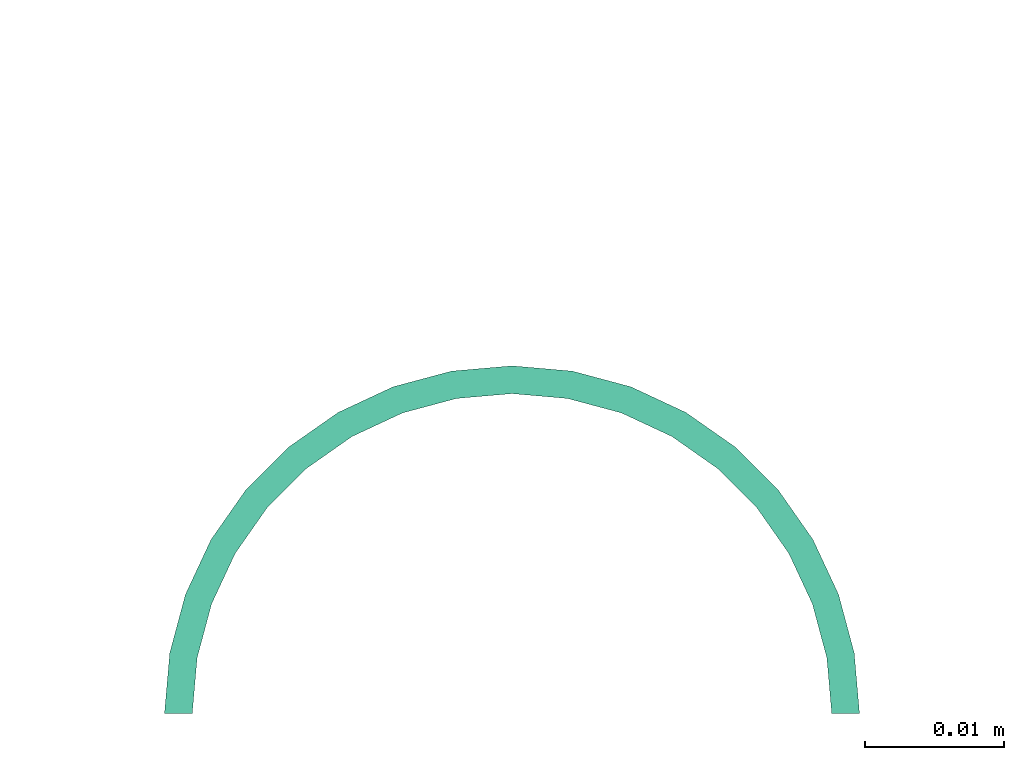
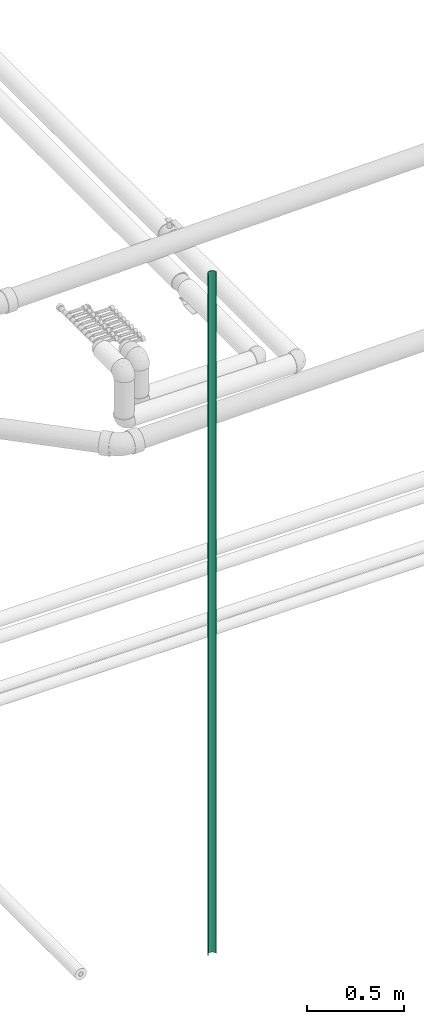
# One storey, part 50 of 83: 1 flow segment.
"""IFC2X3 building model written with IfcOpenShell, lengths in millimetres."""

import ifcopenshell
import ifcopenshell.guid

model = None  # the IFC model being written
_history = None  # IfcOwnerHistory: only IFC2X3 demands one
_inside = {}  # id of a spatial element -> (the spatial element, [elements in it])
_under = {}  # id of a project, library or spatial element -> (it, [spatial elements below it])
_declared = {}  # id of a project -> (the project, [libraries it declares])
_typed = {}  # id of a type object -> (the type object, [elements of that type])
_made_of = {}  # id of a material, layer set ... -> (it, [elements and type objects made of it])


def new_model(schema):
    """Start an empty IFC model of exactly this schema.

    Asked for "IFC4X3", IfcOpenShell would pick the latest addendum, in which some entities
    have other attributes; the version numbers below select the first issue.
    IFC2X3 requires an IfcOwnerHistory on every rooted entity: one is made here for all.
    """
    global model, _history
    if schema == "IFC4X3":
        model = ifcopenshell.file(schema_version=(4, 3, 0, 0))
    else:
        model = ifcopenshell.file(schema=schema)
    _inside.clear()
    _under.clear()
    _declared.clear()
    _typed.clear()
    _made_of.clear()
    _history = None
    if model.schema == "IFC2X3":
        org = make("IfcOrganization", Name="unknown")
        user = make(
            "IfcPersonAndOrganization",
            ThePerson=make("IfcPerson", FamilyName="unknown"),
            TheOrganization=org,
        )
        app = make(
            "IfcApplication",
            ApplicationDeveloper=org,
            Version="unknown",
            ApplicationFullName="unknown",
            ApplicationIdentifier="unknown",
        )
        _history = make(
            "IfcOwnerHistory",
            OwningUser=user,
            OwningApplication=app,
            ChangeAction="ADDED",
            CreationDate=0,
        )
    return model


def make(cls, **values):
    """One entity of the class cls with the attributes given. An attribute that is None is left unset."""
    return model.create_entity(
        cls, **{name: value for name, value in values.items() if value is not None}
    )


def entity(cls, *values):
    """Any entity or typed value of the class cls, its attributes in the order of the schema. None: left unset."""
    e = model.create_entity(cls)
    for i, value in enumerate(values):
        if value is not None:
            e[i] = value
    return e


def rooted(cls, **values):
    """An entity with a GlobalId (a new one), such as an element, a storey or a relation."""
    return make(cls, GlobalId=ifcopenshell.guid.new(), OwnerHistory=_history, **values)


def si_unit(unit_type, name, prefix=None):
    """IfcSIUnit, for example si_unit("LENGTHUNIT", "METRE", prefix="MILLI")."""
    return make("IfcSIUnit", UnitType=unit_type, Prefix=prefix, Name=name)


def converted_unit(unit_type, name, factor, base, dimensions=None, offset=None):
    """IfcConversionBasedUnit, such as the inch: factor (a typed value) times the base unit."""
    return make(
        "IfcConversionBasedUnit"
        if offset is None
        else "IfcConversionBasedUnitWithOffset",
        ConversionOffset=offset,
        Dimensions=None
        if dimensions is None
        else entity("IfcDimensionalExponents", *dimensions),
        UnitType=unit_type,
        Name=name,
        ConversionFactor=make(
            "IfcMeasureWithUnit", ValueComponent=factor, UnitComponent=base
        ),
    )


def derived_unit(unit_type, elements):
    """IfcDerivedUnit: a product of units, each with its exponent."""
    return make(
        "IfcDerivedUnit",
        Elements=[
            make("IfcDerivedUnitElement", Unit=unit, Exponent=power)
            for unit, power in elements
        ],
        UnitType=unit_type,
    )


def assignment(units):
    """IfcUnitAssignment: the units of a project."""
    return None if units is None else make("IfcUnitAssignment", Units=units)


def point(xyz):
    """IfcCartesianPoint."""
    return None if xyz is None else make("IfcCartesianPoint", Coordinates=xyz)


def direction(xyz):
    """IfcDirection."""
    return None if xyz is None else make("IfcDirection", DirectionRatios=xyz)


def frame(location, z_axis=None, x_axis=None):
    """IfcAxis2Placement3D, a coordinate frame: its origin and axes. An axis left out is left unset."""
    return make(
        "IfcAxis2Placement3D",
        Location=point(location),
        Axis=direction(z_axis),
        RefDirection=direction(x_axis),
    )


def place(relative_to, where):
    """IfcLocalPlacement: puts the frame where relative to a parent placement (None: the world)."""
    return make(
        "IfcLocalPlacement", PlacementRelTo=relative_to, RelativePlacement=where
    )


def context(
    kind, dimensions, precision=None, world=None, true_north=None, identifier=None
):
    """IfcGeometricRepresentationContext, for example the 3D "Model" context."""
    return make(
        "IfcGeometricRepresentationContext",
        ContextIdentifier=identifier,
        ContextType=kind,
        CoordinateSpaceDimension=dimensions,
        Precision=precision,
        WorldCoordinateSystem=world,
        TrueNorth=true_north,
    )


def subcontext(parent, identifier, kind, view, scale=None):
    """IfcGeometricRepresentationSubContext, for example "Body" below "Model"."""
    return make(
        "IfcGeometricRepresentationSubContext",
        ContextIdentifier=identifier,
        ContextType=kind,
        ParentContext=parent,
        TargetScale=scale,
        TargetView=view,
    )


def project(units=None, contexts=None):
    """IfcProject with its units and contexts."""
    return rooted(
        "IfcProject",
        Name="project",
        RepresentationContexts=contexts,
        UnitsInContext=assignment(units),
    )


def spatial(cls, under=None, at=None, **own):
    """A site, building, storey or space (cls), placed at a placement, below another one or the project."""
    s = rooted(cls, ObjectPlacement=at, **own)
    if under is not None:
        _under.setdefault(under.id(), (under, []))[1].append(s)
    return s


def faces_of(points, faces, orient=None, outer=None):
    """IfcFace entities. A face is a list of loops; a loop is a list of indices into points, from 0.

    orient and outer hold one flag for each loop. By default every Orientation is true, the
    first loop of a face is its IfcFaceOuterBound and the others are IfcFaceBound.
    """
    made = []
    for i, loops in enumerate(faces):
        bounds = []
        for j, loop in enumerate(loops):
            is_outer = j == 0 if outer is None else outer[i][j]
            bounds.append(
                make(
                    "IfcFaceOuterBound" if is_outer else "IfcFaceBound",
                    Bound=make("IfcPolyLoop", Polygon=[points[k] for k in loop]),
                    Orientation=True if orient is None else orient[i][j],
                )
            )
        made.append(make("IfcFace", Bounds=bounds))
    return made


def faceted_brep(points, faces, orient=None, outer=None, voids=None):
    """IfcFacetedBrep: a solid bounded by flat faces; with voids (closed shells), ...WithVoids."""
    shared = [point(p) for p in points]
    hull = make("IfcClosedShell", CfsFaces=faces_of(shared, faces, orient, outer))
    if voids is None:
        return make("IfcFacetedBrep", Outer=hull)
    return make(
        "IfcFacetedBrepWithVoids",
        Outer=hull,
        Voids=[
            make(cls, CfsFaces=faces_of(shared, fs, o, b)) for cls, fs, o, b in voids
        ],
    )


def shape(context_of_items, identifier, shape_type, items):
    """IfcShapeRepresentation: the items that make up one representation, for example the "Body"."""
    return make(
        "IfcShapeRepresentation",
        ContextOfItems=context_of_items,
        RepresentationIdentifier=identifier,
        RepresentationType=shape_type,
        Items=items,
    )


def made_of(thing, what):
    """Note that an element or type object is made of a material, layer set ...; save() writes the relation."""
    if what is not None:
        _made_of.setdefault(what.id(), (what, []))[1].append(thing)
    return thing


def type_object(cls, material=None, **own):
    """A type object (cls), such as IfcWallType, which elements share."""
    return made_of(rooted(cls, **own), material)


def element(
    cls,
    number,
    at=None,
    inside=None,
    cuts=None,
    type_object=None,
    material=None,
    context=None,
    identifier="Body",
    shape_type=None,
    held_by="IfcProductDefinitionShape",
    body=None,
    shapes=None,
    **own,
):
    """One element of the class cls, such as IfcWall. Its Tag is "e" and its number.

    at: its placement. inside: the storey or other place that contains it. cuts: it is an
    opening in that element (IfcRelVoidsElement). A single representation is given by context,
    identifier, shape_type and body (its items); several are given by shapes. held_by: the class
    of the entity that holds the representations. save() writes the other relations.
    """
    e = rooted(cls, Tag="e%d" % number, ObjectPlacement=at, **own)
    if body is not None:
        shapes = [shape(context, identifier, shape_type, body)]
    if shapes is not None:
        e.Representation = make(held_by, Representations=shapes)
    if inside is not None:
        _inside.setdefault(inside.id(), (inside, []))[1].append(e)
    if cuts is not None:
        rooted(
            "IfcRelVoidsElement", RelatingBuildingElement=cuts, RelatedOpeningElement=e
        )
    if type_object is not None:
        _typed.setdefault(type_object.id(), (type_object, []))[1].append(e)
    return made_of(e, material)


def aggregate(whole, parts):
    """IfcRelAggregates: a whole, such as a stair, and the parts it consists of."""
    return rooted("IfcRelAggregates", RelatingObject=whole, RelatedObjects=parts)


def save(model, path):
    """Write the relations noted so far, then the file.

    IfcRelAggregates (storeys below a building ...), IfcRelContainedInSpatialStructure (elements
    in a storey), IfcRelDefinesByType, IfcRelAssociatesMaterial and IfcRelDeclares: one each for
    every whole, place, type object, material and project.
    """
    for whole, parts in _under.values():
        aggregate(whole, parts)
    for where, things in _inside.values():
        rooted(
            "IfcRelContainedInSpatialStructure",
            RelatedElements=things,
            RelatingStructure=where,
        )
    for kind, things in _typed.values():
        rooted("IfcRelDefinesByType", RelatedObjects=things, RelatingType=kind)
    for what, things in _made_of.values():
        rooted("IfcRelAssociatesMaterial", RelatedObjects=things, RelatingMaterial=what)
    for by, libraries in _declared.values():
        rooted("IfcRelDeclares", RelatingContext=by, RelatedDefinitions=libraries)
    model.write(path)


model = new_model("IFC2X3")

# Units and contexts
model_context = context("Model", 3, precision=0.01, world=frame((0.0, 4.29681676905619e-09, 0.0)), true_north=direction((4.01073788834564e-13, 1.0)))
plan_context = context("Plan", 3, precision=0.01, world=frame((0.0, 4.29681676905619e-09, 0.0)), true_north=direction((4.01073788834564e-13, 1.0)))
body_context = subcontext(model_context, "Body", "Model", "MODEL_VIEW")
ifc_project = project(units=[converted_unit("PLANEANGLEUNIT", "DEGREE", entity("IfcPositiveLengthMeasure", 0.0174532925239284), si_unit("PLANEANGLEUNIT", "RADIAN"), dimensions=[0, 0, 0, 0, 0, 0, 0]), si_unit("AREAUNIT", "SQUARE_METRE"), si_unit("LENGTHUNIT", "METRE", prefix="MILLI"), si_unit("MASSUNIT", "GRAM", prefix="KILO"), si_unit("POWERUNIT", "WATT"), si_unit("PRESSUREUNIT", "PASCAL"), si_unit("FORCEUNIT", "NEWTON", prefix="KILO"), si_unit("ELECTRICVOLTAGEUNIT", "VOLT"), si_unit("ELECTRICCURRENTUNIT", "AMPERE"), si_unit("THERMODYNAMICTEMPERATUREUNIT", "DEGREE_CELSIUS"), si_unit("TIMEUNIT", "SECOND"), si_unit("VOLUMEUNIT", "CUBIC_METRE"), derived_unit("LINEARVELOCITYUNIT", [(si_unit("LENGTHUNIT", "METRE"), 1), (si_unit("TIMEUNIT", "SECOND"), -1)]), derived_unit("VOLUMETRICFLOWRATEUNIT", [(si_unit("VOLUMEUNIT", "CUBIC_METRE"), 1), (si_unit("TIMEUNIT", "SECOND"), -1)]), derived_unit("THERMALTRANSMITTANCEUNIT", [(si_unit("POWERUNIT", "WATT"), 1), (si_unit("THERMODYNAMICTEMPERATUREUNIT", "KELVIN"), -1), (si_unit("AREAUNIT", "SQUARE_METRE"), -1)]), derived_unit("SOUNDPRESSUREUNIT", [(si_unit("PRESSUREUNIT", "PASCAL"), 1)])], contexts=[model_context, plan_context])

# Site, building, storey
site_placement = place(None, frame((0.0, -4.29681676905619e-09, 0.0), z_axis=(0.0, 0.0, 1.0), x_axis=(1.0, 0.0, 0.0)))
site = spatial("IfcSite", under=ifc_project, at=site_placement, Name="ENGM", CompositionType="ELEMENT")
building_placement = place(site_placement, frame((0.0, 4.29681676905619e-09, 0.0), z_axis=(0.0, 0.0, 1.0), x_axis=(1.0, 0.0, 0.0)))
building = spatial("IfcBuilding", under=site, at=building_placement, Name="TI", CompositionType="ELEMENT")
storey_placement = place(building_placement, frame((0.0, 0.0, 204000.0), z_axis=(0.0, 0.0, 1.0), x_axis=(1.0, 0.0, 0.0)))
storey = spatial("IfcBuildingStorey", under=building, at=storey_placement, Name="Nivå D", CompositionType="ELEMENT", Elevation=204000.0)

# Flow segment
pipe_segment_type = type_object("IfcPipeSegmentType", Name="PE rør", PredefinedType="RIGIDSEGMENT")
flow_segment_placement = place(storey_placement, frame((601130.98707, 689000.0, 644.560659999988), z_axis=(0.0, 1.0, 0.0), x_axis=(0.0, 0.0, 1.0)))
element("IfcFlowSegment", 1, at=flow_segment_placement, inside=storey, type_object=pipe_segment_type, Name="PE rør", context=body_context, shape_type="Brep", body=[
    faceted_brep([(9555.43934000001, -23.0000000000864, -9.97715687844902e-10), (9555.43934000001, -22.6505783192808, 3.99390808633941), (5255.43934000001, -22.6505783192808, 3.99390808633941), (5255.43934000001, -23.0000000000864, -9.97715687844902e-10), (9555.43934000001, -21.6129302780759, 7.86646329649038), (5255.43934000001, -21.6129302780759, 7.86646329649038), (9555.43934000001, -19.9185842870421, 11.5), (5255.43934000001, -19.9185842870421, 11.5), (9555.43934000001, -17.6190221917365, 14.7841150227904), (5255.43934000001, -17.6190221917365, 14.7841150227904), (9555.43934000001, -14.7841150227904, 17.6190221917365), (5255.43934000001, -14.7841150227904, 17.6190221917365), (9555.43934000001, -11.5, 19.9185842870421), (5255.43934000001, -11.5, 19.9185842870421), (9555.43934000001, -7.86646329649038, 21.6129302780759), (5255.43934000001, -7.86646329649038, 21.6129302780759), (9555.43934000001, -3.9939080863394, 22.6505783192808), (5255.43934000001, -3.9939080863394, 22.6505783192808), (9555.43934000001, 1.40834381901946e-15, 23.0), (5255.43934000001, 1.40834381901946e-15, 23.0), (9555.43934000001, 3.9939080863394, 22.6505783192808), (5255.43934000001, 3.9939080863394, 22.6505783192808), (9555.43934000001, 7.86646329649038, 21.6129302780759), (5255.43934000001, 7.86646329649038, 21.6129302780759), (9555.43934000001, 11.5, 19.9185842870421), (5255.43934000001, 11.5, 19.9185842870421), (9555.43934000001, 14.7841150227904, 17.6190221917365), (5255.43934000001, 14.7841150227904, 17.6190221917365), (9555.43934000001, 17.6190221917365, 14.7841150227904), (5255.43934000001, 17.6190221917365, 14.7841150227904), (9555.43934000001, 19.9185842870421, 11.5), (5255.43934000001, 19.9185842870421, 11.5), (9555.43934000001, 21.6129302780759, 7.86646329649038), (5255.43934000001, 21.6129302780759, 7.86646329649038), (9555.43934000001, 22.6505783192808, 3.9939080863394), (5255.43934000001, 22.6505783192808, 3.9939080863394), (9555.43934000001, 23.7207427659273, -9.97715687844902e-10), (5255.43934000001, 23.7207427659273, -9.97715687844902e-10), (9555.43934000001, 25.281122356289, -9.97715687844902e-10), (9555.43934000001, 24.6201938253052, 4.34120444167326), (5255.43934000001, 24.6201938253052, 4.34120444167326), (5255.43934000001, 25.281122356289, -9.97715687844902e-10), (9555.43934000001, 23.4923155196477, 8.55050358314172), (5255.43934000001, 23.4923155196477, 8.55050358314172), (9555.43934000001, 21.650635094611, 12.5), (5255.43934000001, 21.650635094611, 12.5), (9555.43934000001, 19.1511110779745, 16.0696902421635), (5255.43934000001, 19.1511110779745, 16.0696902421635), (9555.43934000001, 16.0696902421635, 19.1511110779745), (5255.43934000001, 16.0696902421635, 19.1511110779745), (9555.43934000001, 12.5, 21.650635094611), (5255.43934000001, 12.5, 21.650635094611), (9555.43934000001, 8.55050358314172, 23.4923155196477), (5255.43934000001, 8.55050358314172, 23.4923155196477), (9555.43934000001, 4.34120444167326, 24.6201938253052), (5255.43934000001, 4.34120444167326, 24.6201938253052), (9555.43934000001, 1.53080849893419e-15, 25.0), (5255.43934000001, 1.53080849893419e-15, 25.0), (9555.43934000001, -4.34120444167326, 24.6201938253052), (5255.43934000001, -4.34120444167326, 24.6201938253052), (9555.43934000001, -8.55050358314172, 23.4923155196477), (5255.43934000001, -8.55050358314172, 23.4923155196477), (9555.43934000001, -12.5, 21.650635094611), (5255.43934000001, -12.5, 21.650635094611), (9555.43934000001, -16.0696902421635, 19.1511110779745), (5255.43934000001, -16.0696902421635, 19.1511110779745), (9555.43934000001, -19.1511110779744, 16.0696902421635), (5255.43934000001, -19.1511110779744, 16.0696902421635), (9555.43934000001, -21.650635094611, 12.5), (5255.43934000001, -21.650635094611, 12.5), (9555.43934000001, -23.4923155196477, 8.55050358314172), (5255.43934000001, -23.4923155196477, 8.55050358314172), (9555.43934000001, -24.6201938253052, 4.34120444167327), (5255.43934000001, -24.6201938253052, 4.34120444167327), (9555.43934000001, -25.281122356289, -9.97715687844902e-10), (5255.43934000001, -25.2811223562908, -9.97715687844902e-10), (5255.43934000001, -25.0, 3.06161699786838e-15), (9555.43934000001, -25.0, 3.06161699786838e-15), (5255.43934000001, 23.0, 0.0), (9555.43934000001, 23.0, 0.0), (9555.43934000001, 25.0, 0.0), (5255.43934000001, 25.0, 0.0)], [[[0, 1, 2, 3]], [[1, 4, 5, 2]], [[4, 6, 7, 5]], [[6, 8, 9, 7]], [[8, 10, 11, 9]], [[10, 12, 13, 11]], [[12, 14, 15, 13]], [[14, 16, 17, 15]], [[16, 18, 19, 17]], [[18, 20, 21, 19]], [[20, 22, 23, 21]], [[22, 24, 25, 23]], [[24, 26, 27, 25]], [[26, 28, 29, 27]], [[28, 30, 31, 29]], [[30, 32, 33, 31]], [[32, 34, 35, 33]], [[34, 36, 37, 35]], [[38, 39, 40, 41]], [[39, 42, 43, 40]], [[42, 44, 45, 43]], [[44, 46, 47, 45]], [[46, 48, 49, 47]], [[48, 50, 51, 49]], [[50, 52, 53, 51]], [[52, 54, 55, 53]], [[54, 56, 57, 55]], [[56, 58, 59, 57]], [[58, 60, 61, 59]], [[60, 62, 63, 61]], [[62, 64, 65, 63]], [[64, 66, 67, 65]], [[66, 68, 69, 67]], [[68, 70, 71, 69]], [[70, 72, 73, 71]], [[72, 74, 75, 73]], [[76, 77, 0, 3]], [[78, 79, 80, 81]], [[81, 40, 43, 45, 47, 49, 51, 53, 55, 57, 59, 61, 63, 65, 67, 69, 71, 73, 76, 3, 2, 5, 7, 9, 11, 13, 15, 17, 19, 21, 23, 25, 27, 29, 31, 33, 35, 78]], [[77, 72, 70, 68, 66, 64, 62, 60, 58, 56, 54, 52, 50, 48, 46, 44, 42, 39, 80, 79, 34, 32, 30, 28, 26, 24, 22, 20, 18, 16, 14, 12, 10, 8, 6, 4, 1, 0]]], orient=[[False], [False], [False], [False], [False], [False], [False], [False], [False], [False], [False], [False], [False], [False], [False], [False], [False], [False], [False], [False], [False], [False], [False], [False], [False], [False], [False], [False], [False], [False], [False], [False], [False], [False], [False], [False], [False], [False], [False], [False]]),
])

save(model, "model.ifc")
